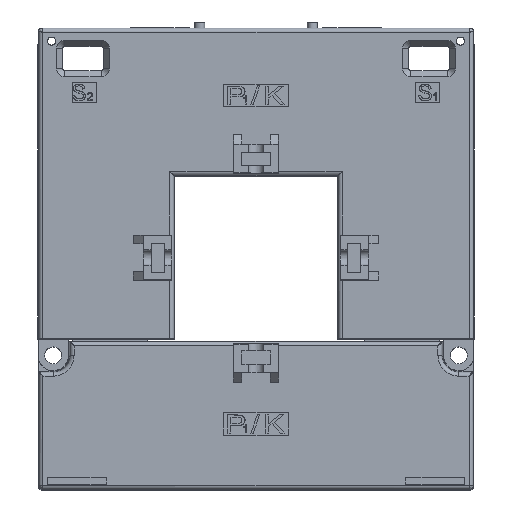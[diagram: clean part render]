
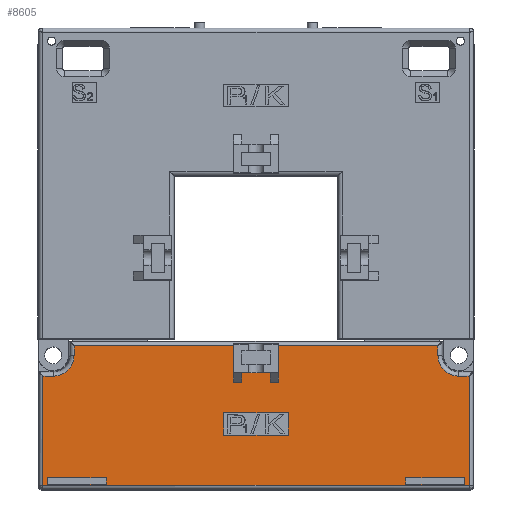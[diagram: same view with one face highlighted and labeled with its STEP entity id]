
A CAD part, top view. The second image highlights one B-rep face of the part: STEP entity #8605.
In plain terms, the highlighted planar face has unit normal (0, 0, 1).
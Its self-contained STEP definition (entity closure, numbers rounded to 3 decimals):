
#2607=LINE('',#35634,#5563);
#2608=LINE('',#35637,#5564);
#2609=LINE('',#35639,#5565);
#2610=LINE('',#35641,#5566);
#2611=LINE('',#35642,#5567);
#2612=LINE('',#35645,#5568);
#2613=LINE('',#35647,#5569);
#2614=LINE('',#35649,#5570);
#2615=LINE('',#35651,#5571);
#2616=LINE('',#35653,#5572);
#2617=LINE('',#35655,#5573);
#2618=LINE('',#35659,#5574);
#2619=LINE('',#35661,#5575);
#2620=LINE('',#35663,#5576);
#2621=LINE('',#35665,#5577);
#2622=LINE('',#35667,#5578);
#2623=LINE('',#35671,#5579);
#2624=LINE('',#35673,#5580);
#2625=LINE('',#35675,#5581);
#2626=LINE('',#35677,#5582);
#2627=LINE('',#35678,#5583);
#2628=LINE('',#35681,#5584);
#2629=LINE('',#35683,#5585);
#2630=LINE('',#35685,#5586);
#2631=LINE('',#35686,#5587);
#2632=LINE('',#35689,#5588);
#2633=LINE('',#35691,#5589);
#2634=LINE('',#35693,#5590);
#5563=VECTOR('',#29072,1.);
#5564=VECTOR('',#29073,1.);
#5565=VECTOR('',#29074,1.);
#5566=VECTOR('',#29075,1.);
#5567=VECTOR('',#29076,1.);
#5568=VECTOR('',#29077,1.);
#5569=VECTOR('',#29078,1.);
#5570=VECTOR('',#29079,1.);
#5571=VECTOR('',#29080,1.);
#5572=VECTOR('',#29081,1.);
#5573=VECTOR('',#29082,1.);
#5574=VECTOR('',#29085,1.);
#5575=VECTOR('',#29086,1.);
#5576=VECTOR('',#29087,1.);
#5577=VECTOR('',#29088,1.);
#5578=VECTOR('',#29089,1.);
#5579=VECTOR('',#29092,1.);
#5580=VECTOR('',#29093,1.);
#5581=VECTOR('',#29094,1.);
#5582=VECTOR('',#29095,1.);
#5583=VECTOR('',#29096,1.);
#5584=VECTOR('',#29097,1.);
#5585=VECTOR('',#29098,1.);
#5586=VECTOR('',#29099,1.);
#5587=VECTOR('',#29100,1.);
#5588=VECTOR('',#29101,1.);
#5589=VECTOR('',#29102,1.);
#5590=VECTOR('',#29103,1.);
#8605=ADVANCED_FACE('',(#11032,#11033,#11034,#11035),#10021,.F.);
#10021=PLANE('',#27282);
#11032=FACE_BOUND('',#11253,.T.);
#11033=FACE_BOUND('',#11254,.T.);
#11034=FACE_BOUND('',#11255,.T.);
#11035=FACE_BOUND('',#11256,.T.);
#11253=EDGE_LOOP('',(#12890,#12891,#12892,#12893));
#11254=EDGE_LOOP('',(#12894,#12895,#12896,#12897,#12898,#12899,#12900,#12901,
#12902,#12903,#12904,#12905,#12906,#12907,#12908,#12909,#12910,#12911));
#11255=EDGE_LOOP('',(#12912,#12913,#12914,#12915));
#11256=EDGE_LOOP('',(#12916,#12917,#12918,#12919));
#12890=ORIENTED_EDGE('',*,*,#23147,.T.);
#12891=ORIENTED_EDGE('',*,*,#23148,.T.);
#12892=ORIENTED_EDGE('',*,*,#23149,.T.);
#12893=ORIENTED_EDGE('',*,*,#23150,.T.);
#12894=ORIENTED_EDGE('',*,*,#23151,.F.);
#12895=ORIENTED_EDGE('',*,*,#23152,.F.);
#12896=ORIENTED_EDGE('',*,*,#23153,.F.);
#12897=ORIENTED_EDGE('',*,*,#23154,.F.);
#12898=ORIENTED_EDGE('',*,*,#23155,.T.);
#12899=ORIENTED_EDGE('',*,*,#23156,.T.);
#12900=ORIENTED_EDGE('',*,*,#23157,.T.);
#12901=ORIENTED_EDGE('',*,*,#23158,.T.);
#12902=ORIENTED_EDGE('',*,*,#23159,.T.);
#12903=ORIENTED_EDGE('',*,*,#23160,.F.);
#12904=ORIENTED_EDGE('',*,*,#23161,.T.);
#12905=ORIENTED_EDGE('',*,*,#23162,.T.);
#12906=ORIENTED_EDGE('',*,*,#23163,.T.);
#12907=ORIENTED_EDGE('',*,*,#23164,.T.);
#12908=ORIENTED_EDGE('',*,*,#23165,.T.);
#12909=ORIENTED_EDGE('',*,*,#23166,.T.);
#12910=ORIENTED_EDGE('',*,*,#23167,.T.);
#12911=ORIENTED_EDGE('',*,*,#23168,.F.);
#12912=ORIENTED_EDGE('',*,*,#23169,.F.);
#12913=ORIENTED_EDGE('',*,*,#23170,.F.);
#12914=ORIENTED_EDGE('',*,*,#23171,.F.);
#12915=ORIENTED_EDGE('',*,*,#23172,.F.);
#12916=ORIENTED_EDGE('',*,*,#23173,.T.);
#12917=ORIENTED_EDGE('',*,*,#23174,.T.);
#12918=ORIENTED_EDGE('',*,*,#23175,.T.);
#12919=ORIENTED_EDGE('',*,*,#23176,.T.);
#20588=VERTEX_POINT('',#35635);
#20589=VERTEX_POINT('',#35636);
#20590=VERTEX_POINT('',#35638);
#20591=VERTEX_POINT('',#35640);
#20592=VERTEX_POINT('',#35643);
#20593=VERTEX_POINT('',#35644);
#20594=VERTEX_POINT('',#35646);
#20595=VERTEX_POINT('',#35648);
#20596=VERTEX_POINT('',#35650);
#20597=VERTEX_POINT('',#35652);
#20598=VERTEX_POINT('',#35654);
#20599=VERTEX_POINT('',#35656);
#20600=VERTEX_POINT('',#35658);
#20601=VERTEX_POINT('',#35660);
#20602=VERTEX_POINT('',#35662);
#20603=VERTEX_POINT('',#35664);
#20604=VERTEX_POINT('',#35666);
#20605=VERTEX_POINT('',#35668);
#20606=VERTEX_POINT('',#35670);
#20607=VERTEX_POINT('',#35672);
#20608=VERTEX_POINT('',#35674);
#20609=VERTEX_POINT('',#35676);
#20610=VERTEX_POINT('',#35679);
#20611=VERTEX_POINT('',#35680);
#20612=VERTEX_POINT('',#35682);
#20613=VERTEX_POINT('',#35684);
#20614=VERTEX_POINT('',#35687);
#20615=VERTEX_POINT('',#35688);
#20616=VERTEX_POINT('',#35690);
#20617=VERTEX_POINT('',#35692);
#23147=EDGE_CURVE('',#20588,#20589,#2607,.T.);
#23148=EDGE_CURVE('',#20589,#20590,#2608,.T.);
#23149=EDGE_CURVE('',#20590,#20591,#2609,.T.);
#23150=EDGE_CURVE('',#20591,#20588,#2610,.T.);
#23151=EDGE_CURVE('',#20592,#20593,#2611,.T.);
#23152=EDGE_CURVE('',#20594,#20592,#2612,.T.);
#23153=EDGE_CURVE('',#20595,#20594,#2613,.T.);
#23154=EDGE_CURVE('',#20596,#20595,#2614,.T.);
#23155=EDGE_CURVE('',#20596,#20597,#2615,.T.);
#23156=EDGE_CURVE('',#20597,#20598,#2616,.T.);
#23157=EDGE_CURVE('',#20598,#20599,#2617,.T.);
#23158=EDGE_CURVE('',#20599,#20600,#26920,.T.);
#23159=EDGE_CURVE('',#20600,#20601,#2618,.T.);
#23160=EDGE_CURVE('',#20602,#20601,#2619,.T.);
#23161=EDGE_CURVE('',#20602,#20603,#2620,.T.);
#23162=EDGE_CURVE('',#20603,#20604,#2621,.T.);
#23163=EDGE_CURVE('',#20604,#20605,#2622,.T.);
#23164=EDGE_CURVE('',#20605,#20606,#26921,.T.);
#23165=EDGE_CURVE('',#20606,#20607,#2623,.T.);
#23166=EDGE_CURVE('',#20607,#20608,#2624,.T.);
#23167=EDGE_CURVE('',#20608,#20609,#2625,.T.);
#23168=EDGE_CURVE('',#20593,#20609,#2626,.T.);
#23169=EDGE_CURVE('',#20610,#20611,#2627,.T.);
#23170=EDGE_CURVE('',#20612,#20610,#2628,.T.);
#23171=EDGE_CURVE('',#20613,#20612,#2629,.T.);
#23172=EDGE_CURVE('',#20611,#20613,#2630,.T.);
#23173=EDGE_CURVE('',#20614,#20615,#2631,.T.);
#23174=EDGE_CURVE('',#20615,#20616,#2632,.T.);
#23175=EDGE_CURVE('',#20616,#20617,#2633,.T.);
#23176=EDGE_CURVE('',#20617,#20614,#2634,.T.);
#26920=CIRCLE('',#27280,5.175);
#26921=CIRCLE('',#27281,5.175);
#27280=AXIS2_PLACEMENT_3D('',#35657,#29083,#29084);
#27281=AXIS2_PLACEMENT_3D('',#35669,#29090,#29091);
#27282=AXIS2_PLACEMENT_3D('',#35694,#29104,#29105);
#29072=DIRECTION('',(0.,-1.,0.));
#29073=DIRECTION('',(-1.,0.,0.));
#29074=DIRECTION('',(0.,1.,0.));
#29075=DIRECTION('',(1.,0.,0.));
#29076=DIRECTION('',(0.,-1.,0.));
#29077=DIRECTION('',(1.,0.,0.));
#29078=DIRECTION('',(0.,1.,0.));
#29079=DIRECTION('',(1.,0.,0.));
#29080=DIRECTION('',(0.,1.,0.));
#29081=DIRECTION('',(-1.,0.,0.));
#29082=DIRECTION('',(0.,-1.,0.));
#29083=DIRECTION('',(0.,0.,-1.));
#29084=DIRECTION('',(-1.,0.,0.));
#29085=DIRECTION('',(-1.,0.,0.));
#29086=DIRECTION('',(0.,1.,0.));
#29087=DIRECTION('',(1.,0.,0.));
#29088=DIRECTION('',(0.,1.,0.));
#29089=DIRECTION('',(-1.,0.,0.));
#29090=DIRECTION('',(0.,0.,-1.));
#29091=DIRECTION('',(-1.,0.,0.));
#29092=DIRECTION('',(0.,1.,0.));
#29093=DIRECTION('',(-1.,0.,0.));
#29094=DIRECTION('',(0.,-1.,0.));
#29095=DIRECTION('',(1.,0.,0.));
#29096=DIRECTION('',(-1.,0.,0.));
#29097=DIRECTION('',(0.,1.,0.));
#29098=DIRECTION('',(1.,0.,0.));
#29099=DIRECTION('',(0.,-1.,0.));
#29100=DIRECTION('',(1.,0.,0.));
#29101=DIRECTION('',(0.,-1.,0.));
#29102=DIRECTION('',(-1.,0.,0.));
#29103=DIRECTION('',(0.,1.,0.));
#29104=DIRECTION('',(0.,0.,-1.));
#29105=DIRECTION('',(0.,1.,0.));
#35634=CARTESIAN_POINT('',(8.,-36.196,18.));
#35635=CARTESIAN_POINT('',(8.,-14.935,18.));
#35636=CARTESIAN_POINT('',(8.,-20.435,18.));
#35637=CARTESIAN_POINT('',(74.727,-20.435,18.));
#35638=CARTESIAN_POINT('',(-8.,-20.435,18.));
#35639=CARTESIAN_POINT('',(-8.,-36.196,18.));
#35640=CARTESIAN_POINT('',(-8.,-14.935,18.));
#35641=CARTESIAN_POINT('',(74.727,-14.935,18.));
#35642=CARTESIAN_POINT('',(3.5,-30.178,18.));
#35643=CARTESIAN_POINT('',(3.5,-4.928,18.));
#35644=CARTESIAN_POINT('',(3.5,-7.33,18.));
#35645=CARTESIAN_POINT('',(108.19,-4.928,18.));
#35646=CARTESIAN_POINT('',(-3.5,-4.928,18.));
#35647=CARTESIAN_POINT('',(-3.5,-30.178,18.));
#35648=CARTESIAN_POINT('',(-3.5,-7.33,18.));
#35649=CARTESIAN_POINT('',(108.19,-7.33,18.));
#35650=CARTESIAN_POINT('',(-5.598,-7.33,18.));
#35651=CARTESIAN_POINT('',(-5.598,-1.23,18.));
#35652=CARTESIAN_POINT('',(-5.598,1.722,18.));
#35653=CARTESIAN_POINT('',(74.344,1.722,18.));
#35654=CARTESIAN_POINT('',(-45.179,1.722,18.));
#35655=CARTESIAN_POINT('',(-45.179,-33.196,18.));
#35656=CARTESIAN_POINT('',(-45.179,-0.649,18.));
#35657=CARTESIAN_POINT('',(-50.354,-0.649,18.));
#35658=CARTESIAN_POINT('',(-50.354,-5.824,18.));
#35659=CARTESIAN_POINT('',(74.344,-5.824,18.));
#35660=CARTESIAN_POINT('',(-52.906,-5.824,18.));
#35661=CARTESIAN_POINT('',(-52.906,-33.196,18.));
#35662=CARTESIAN_POINT('',(-52.906,-32.904,18.));
#35663=CARTESIAN_POINT('',(74.344,-32.904,18.));
#35664=CARTESIAN_POINT('',(52.906,-32.904,18.));
#35665=CARTESIAN_POINT('',(52.906,-33.196,18.));
#35666=CARTESIAN_POINT('',(52.906,-5.824,18.));
#35667=CARTESIAN_POINT('',(74.344,-5.824,18.));
#35668=CARTESIAN_POINT('',(50.354,-5.824,18.));
#35669=CARTESIAN_POINT('',(50.354,-0.649,18.));
#35670=CARTESIAN_POINT('',(45.179,-0.649,18.));
#35671=CARTESIAN_POINT('',(45.179,-33.196,18.));
#35672=CARTESIAN_POINT('',(45.179,1.722,18.));
#35673=CARTESIAN_POINT('',(74.344,1.722,18.));
#35674=CARTESIAN_POINT('',(5.598,1.722,18.));
#35675=CARTESIAN_POINT('',(5.598,-1.23,18.));
#35676=CARTESIAN_POINT('',(5.598,-7.33,18.));
#35677=CARTESIAN_POINT('',(108.19,-7.33,18.));
#35678=CARTESIAN_POINT('',(-37.202,-30.983,18.));
#35679=CARTESIAN_POINT('',(-37.202,-30.983,18.));
#35680=CARTESIAN_POINT('',(-51.789,-30.983,18.));
#35681=CARTESIAN_POINT('',(-37.202,-32.693,18.));
#35682=CARTESIAN_POINT('',(-37.202,-32.693,18.));
#35683=CARTESIAN_POINT('',(-51.789,-32.693,18.));
#35684=CARTESIAN_POINT('',(-51.789,-32.693,18.));
#35685=CARTESIAN_POINT('',(-51.789,-30.983,18.));
#35686=CARTESIAN_POINT('',(37.202,-30.983,18.));
#35687=CARTESIAN_POINT('',(37.202,-30.983,18.));
#35688=CARTESIAN_POINT('',(51.789,-30.983,18.));
#35689=CARTESIAN_POINT('',(51.789,-30.983,18.));
#35690=CARTESIAN_POINT('',(51.789,-32.693,18.));
#35691=CARTESIAN_POINT('',(51.789,-32.693,18.));
#35692=CARTESIAN_POINT('',(37.202,-32.693,18.));
#35693=CARTESIAN_POINT('',(37.202,-32.693,18.));
#35694=CARTESIAN_POINT('',(74.344,-33.196,18.));
